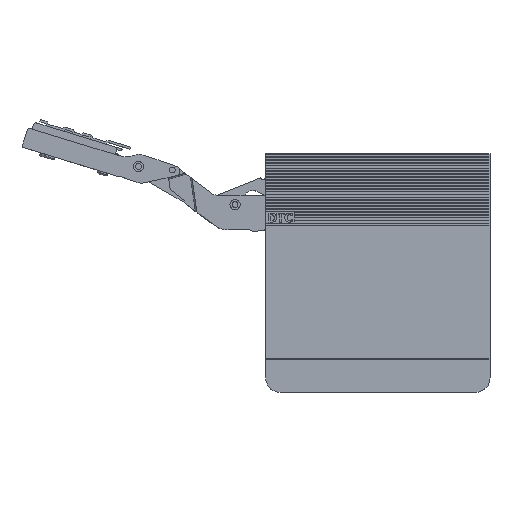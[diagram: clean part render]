
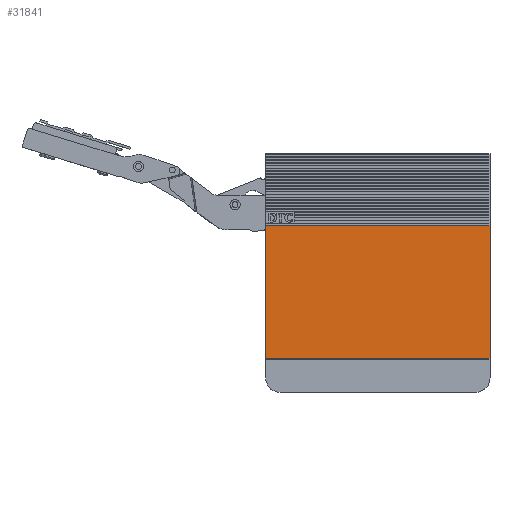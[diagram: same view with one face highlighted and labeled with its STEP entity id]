
A CAD part, top view. The second image highlights one B-rep face of the part: STEP entity #31841.
In plain terms, the highlighted planar face has unit normal (0, 0, 1).
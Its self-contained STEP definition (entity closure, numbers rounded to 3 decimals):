
#3934=LINE('',#52066,#7250);
#3976=LINE('',#52213,#7292);
#4149=LINE('',#52560,#7465);
#4150=LINE('',#52561,#7466);
#7250=VECTOR('',#42607,10.);
#7292=VECTOR('',#42755,10.);
#7465=VECTOR('',#43100,10.);
#7466=VECTOR('',#43101,10.);
#8669=PLANE('',#34744);
#10293=FACE_OUTER_BOUND('',#12200,.T.);
#12200=EDGE_LOOP('',(#28705,#28706,#28707,#28708));
#15895=VERTEX_POINT('',#52063);
#15896=VERTEX_POINT('',#52065);
#15948=VERTEX_POINT('',#52211);
#16036=VERTEX_POINT('',#52559);
#20078=EDGE_CURVE('',#15896,#15895,#3934,.T.);
#20146=EDGE_CURVE('',#15948,#15896,#3976,.T.);
#20319=EDGE_CURVE('',#15895,#16036,#4149,.T.);
#20320=EDGE_CURVE('',#16036,#15948,#4150,.T.);
#28705=ORIENTED_EDGE('',*,*,#20146,.T.);
#28706=ORIENTED_EDGE('',*,*,#20078,.T.);
#28707=ORIENTED_EDGE('',*,*,#20319,.T.);
#28708=ORIENTED_EDGE('',*,*,#20320,.T.);
#31841=ADVANCED_FACE('',(#10293),#8669,.T.);
#34744=AXIS2_PLACEMENT_3D('',#52558,#43098,#43099);
#42607=DIRECTION('',(0.,-1.,0.));
#42755=DIRECTION('',(-1.,0.,0.));
#43098=DIRECTION('center_axis',(0.,0.,1.));
#43099=DIRECTION('ref_axis',(1.,0.,0.));
#43100=DIRECTION('',(1.,0.,0.));
#43101=DIRECTION('',(0.,1.,0.));
#52063=CARTESIAN_POINT('',(-9.707,19.21,17.));
#52065=CARTESIAN_POINT('',(-9.707,110.71,17.));
#52066=CARTESIAN_POINT('',(-9.707,160.71,17.));
#52211=CARTESIAN_POINT('',(145.293,110.71,17.));
#52213=CARTESIAN_POINT('',(29.043,110.71,17.));
#52558=CARTESIAN_POINT('Origin',(67.793,78.21,17.));
#52559=CARTESIAN_POINT('',(145.293,19.21,17.));
#52560=CARTESIAN_POINT('',(29.043,19.21,17.));
#52561=CARTESIAN_POINT('',(145.293,-4.29,17.));
